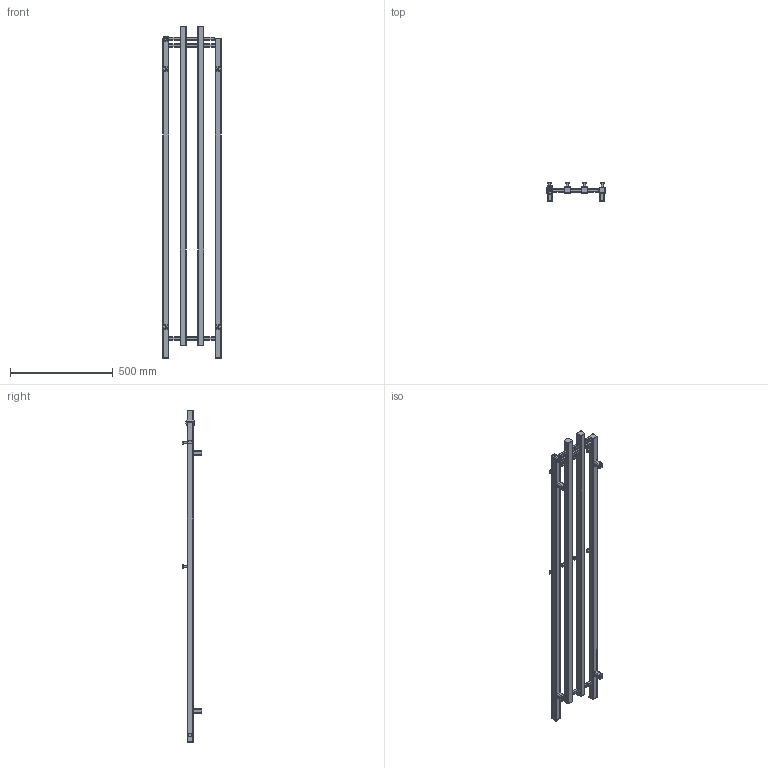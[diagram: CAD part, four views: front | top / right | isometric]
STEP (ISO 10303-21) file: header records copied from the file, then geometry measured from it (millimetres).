
FILE_DESCRIPTION( ( 'Unknown' ), '1' );
FILE_NAME( 'D:/Alplast sp. j/Witryna zespoBu - Projekty/Archiwum/Grzejniki Archiwum/Projekty/DESIGN PROGRAM/TUBO K/TUBO 1 K.stp', 'Unknown', ( 'Unknown' ), ( 'Unknown' ), 'PSStep 10.1', 'Unknown', ' ' );
FILE_SCHEMA( ( 'AUTOMOTIVE_DESIGN { 1 0 10303 214 1 1 1 1 }' ) );
Length unit declared in the file: millimetre
Products named in the file (16): Mocowanie kwadratowe L40; Wieszak kwadrat; Assem1; profil z wciêciami; blacha z fasol¹ kwadrat; MOCOWANIE L40-03; wieszak 02; wieszak 01; ³¹cznik górny 20x20; ³¹cznik górny 20x20-oa0; RURA BOCZNA LEWA PRAWA  30x30 1555  ; RURA BOCZNA LEWA PRAWA  30x30 1555  -oa1; RURA ŒRODKOWA  LEWA PRAWA  30x30 1555  ; RURA ŒRODKOWA  LEWA PRAWA  30x30 1555  -oa2; zaslepka kwadrat otwor; zaslepka kwadrat pe³na
Bounding box: 285 x 94 x 1615 mm (x, y, z)
Volume: 2244795.3 mm3; surface area: 2930622.4 mm2
Topology: 60 solids, 60 shells, 1099 faces, 2924 edges, 1920 vertices
Faces by surface type: plane 595, cylinder 492, cone 6, torus 6
Full cylindrical faces by diameter (mm): 4.917 x6, 9 x32, 16 x6, 18 x6, 18.631 x3, 23 x3
Entity records: 13773 total; most frequent: DIRECTION 1960, CARTESIAN_POINT 1860, ORIENTED_EDGE 1792, EDGE_CURVE 896, AXIS2_PLACEMENT_3D 696, VERTEX_POINT 596, LINE 568, VECTOR 568
